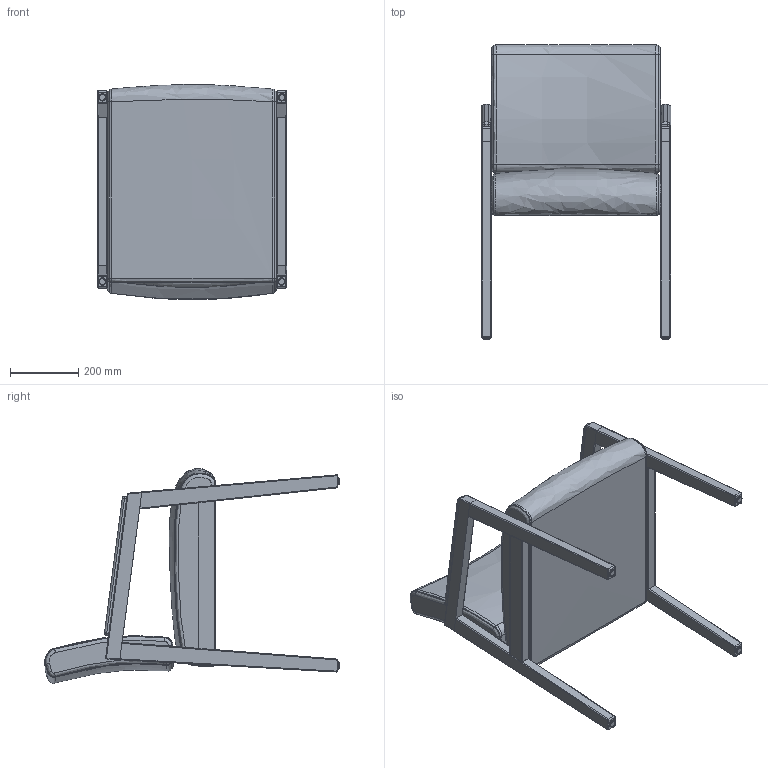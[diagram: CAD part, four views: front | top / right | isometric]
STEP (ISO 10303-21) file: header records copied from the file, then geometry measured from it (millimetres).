
FILE_DESCRIPTION(/* description */ (''),/* implementation_level */ '2;1');
FILE_NAME(/* name */ 'Geo 101.step',/* time_stamp */ '2026-03-20T13:52:04-07:00',/* author */ (''),/* organization */ (''),/* preprocessor_version */ 'ST-DEVELOPER v20.1',/* originating_system */ 'Autodesk Translation Framework v14.24.0.0',/* authorisation */ '');
FILE_SCHEMA (('AUTOMOTIVE_DESIGN { 1 0 10303 214 3 1 1 }'));
Length unit declared in the file: inch
Products named in the file (1): Geo 100
Bounding box: 553.72 x 862.09 x 630.01 mm (x, y, z)
Volume: 54641288.9 mm3; surface area: 2294672.8 mm2
Topology: 20 solids, 20 shells, 363 faces, 830 edges, 503 vertices
Faces by surface type: bspline 133, cylinder 92, plane 80, torus 44, sphere 10, cone 4
Entity records: 19879 total; most frequent: CARTESIAN_POINT 12280, ORIENTED_EDGE 1652, DIRECTION 1436, EDGE_CURVE 826, AXIS2_PLACEMENT_3D 604, VERTEX_POINT 503, FACE_OUTER_BOUND 363, EDGE_LOOP 363
